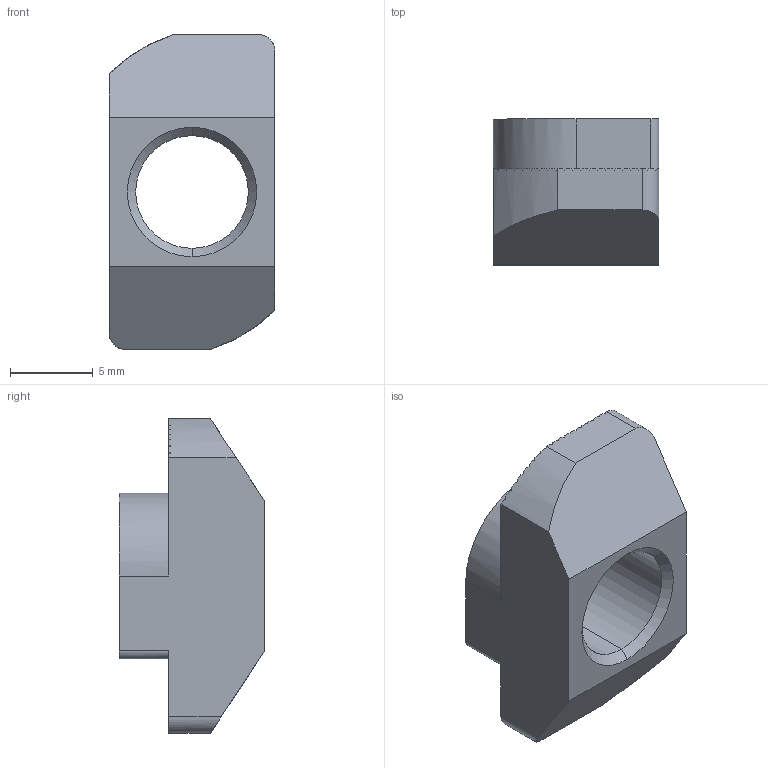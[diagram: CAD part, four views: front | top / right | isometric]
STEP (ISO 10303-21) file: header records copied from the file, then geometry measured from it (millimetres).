
FILE_DESCRIPTION (( 'STEP AP203' ), '1' );
FILE_NAME ('LIMA-RN8-104545.STEP', '2018-03-15T12:25:15', ( '' ), ( '' ), 'SwSTEP 2.0', 'SolidWorks 2013', '' );
FILE_SCHEMA (( 'CONFIG_CONTROL_DESIGN' ));
Length unit declared in the file: millimetre
Products named in the file (1): LIMA-RN8-104545
Bounding box: 10 x 8.8 x 19 mm (x, y, z)
Volume: 856.6 mm3; surface area: 842.6 mm2
Topology: 1 solids, 1 shells, 144 faces, 424 edges, 282 vertices
Faces by surface type: plane 132, cylinder 10, cone 2
Entity records: 4832 total; most frequent: CARTESIAN_POINT 1115, ORIENTED_EDGE 848, DIRECTION 685, EDGE_CURVE 424, VERTEX_POINT 282, LINE 277, VECTOR 277, AXIS2_PLACEMENT_3D 204
